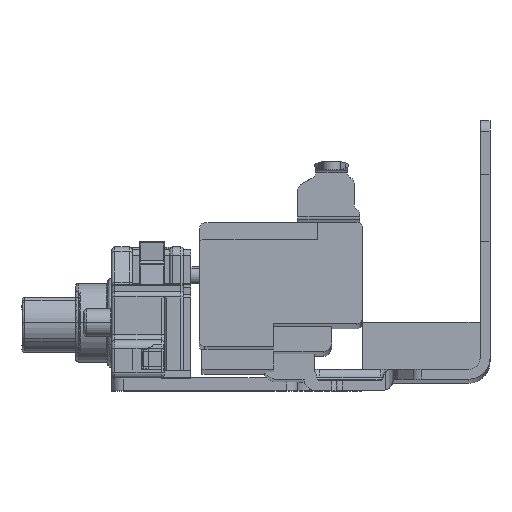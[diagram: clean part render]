
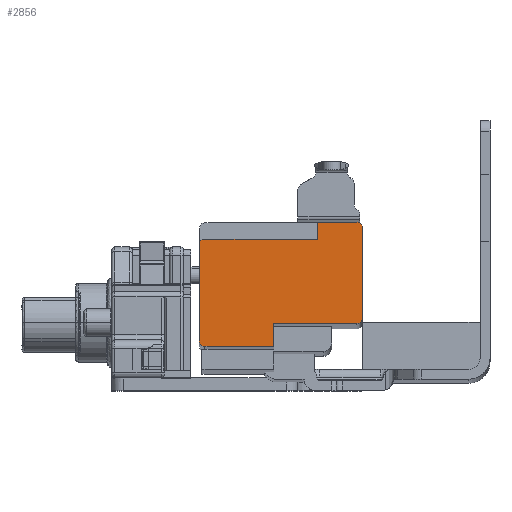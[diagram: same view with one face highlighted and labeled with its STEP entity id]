
A CAD part, top view. The second image highlights one B-rep face of the part: STEP entity #2856.
In plain terms, the highlighted planar face has unit normal (0, 0, 1).
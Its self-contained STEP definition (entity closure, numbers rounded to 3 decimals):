
#299 = VECTOR ( 'NONE', #1871, 1000. ) ;
#463 = CARTESIAN_POINT ( 'NONE',  ( -42.85, 3., 544.3 ) ) ;
#606 = ORIENTED_EDGE ( 'NONE', *, *, #17475, .F. ) ;
#682 = VERTEX_POINT ( 'NONE', #9401 ) ;
#933 = EDGE_CURVE ( 'NONE', #9607, #6659, #4961, .T. ) ;
#1223 = VECTOR ( 'NONE', #9857, 1000. ) ;
#1276 = CARTESIAN_POINT ( 'NONE',  ( -43.85, -14., 544.3 ) ) ;
#1586 = CIRCLE ( 'NONE', #10857, 1. ) ;
#1814 = VECTOR ( 'NONE', #14623, 1000. ) ;
#1827 = DIRECTION ( 'NONE',  ( 0., 0., -1. ) ) ;
#1871 = DIRECTION ( 'NONE',  ( 1., 0., 0. ) ) ;
#2123 = VERTEX_POINT ( 'NONE', #8996 ) ;
#2140 = VECTOR ( 'NONE', #15627, 1000. ) ;
#2372 = VECTOR ( 'NONE', #5344, 1000. ) ;
#2712 = EDGE_CURVE ( 'NONE', #16936, #17001, #8717, .T. ) ;
#2856 = ADVANCED_FACE ( 'NONE', ( #14424 ), #11990, .T. ) ;
#3037 = AXIS2_PLACEMENT_3D ( 'NONE', #10259, #1827, #11664 ) ;
#3532 = ORIENTED_EDGE ( 'NONE', *, *, #12934, .F. ) ;
#3564 = CARTESIAN_POINT ( 'NONE',  ( -40.3, 0., 544.3 ) ) ;
#3664 = CARTESIAN_POINT ( 'NONE',  ( -50.85, 1., 544.3 ) ) ;
#3776 = EDGE_CURVE ( 'NONE', #15639, #14780, #12922, .T. ) ;
#3796 = DIRECTION ( 'NONE',  ( 0., 0., -1. ) ) ;
#3938 = CARTESIAN_POINT ( 'NONE',  ( -58.68, 0., 544.3 ) ) ;
#4047 = CIRCLE ( 'NONE', #3037, 0.97 ) ;
#4367 = CARTESIAN_POINT ( 'NONE',  ( -50.85, 1., 544.3 ) ) ;
#4457 = DIRECTION ( 'NONE',  ( 0., 0., -1. ) ) ;
#4479 = EDGE_CURVE ( 'NONE', #15639, #8712, #11143, .T. ) ;
#4774 = CARTESIAN_POINT ( 'NONE',  ( -40.3, -18.1, 544.3 ) ) ;
#4828 = AXIS2_PLACEMENT_3D ( 'NONE', #12217, #3796, #13641 ) ;
#4961 = LINE ( 'NONE', #16797, #16199 ) ;
#4983 = DIRECTION ( 'NONE',  ( -1., 0., 0. ) ) ;
#5133 = LINE ( 'NONE', #4774, #1814 ) ;
#5344 = DIRECTION ( 'NONE',  ( 0., -1., 0. ) ) ;
#5448 = CARTESIAN_POINT ( 'NONE',  ( -71.88, -17.1, 544.3 ) ) ;
#5960 = EDGE_CURVE ( 'NONE', #14780, #9205, #7805, .T. ) ;
#6092 = ORIENTED_EDGE ( 'NONE', *, *, #2712, .F. ) ;
#6659 = VERTEX_POINT ( 'NONE', #5448 ) ;
#6782 = CARTESIAN_POINT ( 'NONE',  ( -42.85, -13., 544.3 ) ) ;
#6836 = CARTESIAN_POINT ( 'NONE',  ( -40.3, -14., 544.3 ) ) ;
#6985 = LINE ( 'NONE', #3938, #2372 ) ;
#7190 = CARTESIAN_POINT ( 'NONE',  ( -58.68, -14., 544.3 ) ) ;
#7340 = CIRCLE ( 'NONE', #17833, 1. ) ;
#7410 = VECTOR ( 'NONE', #15164, 1000. ) ;
#7439 = EDGE_LOOP ( 'NONE', ( #12522, #11257, #17515, #3532, #606, #7887, #6092, #14096, #7824, #14061, #7982, #8941 ) ) ;
#7622 = CARTESIAN_POINT ( 'NONE',  ( -43.85, -13., 544.3 ) ) ;
#7805 = LINE ( 'NONE', #10370, #299 ) ;
#7824 = ORIENTED_EDGE ( 'NONE', *, *, #5960, .F. ) ;
#7887 = ORIENTED_EDGE ( 'NONE', *, *, #16482, .F. ) ;
#7982 = ORIENTED_EDGE ( 'NONE', *, *, #4479, .T. ) ;
#8712 = VERTEX_POINT ( 'NONE', #10321 ) ;
#8717 = LINE ( 'NONE', #16880, #1223 ) ;
#8941 = ORIENTED_EDGE ( 'NONE', *, *, #16893, .F. ) ;
#8996 = CARTESIAN_POINT ( 'NONE',  ( -58.68, -18.1, 544.3 ) ) ;
#9055 = DIRECTION ( 'NONE',  ( -1., 0., 0. ) ) ;
#9205 = VERTEX_POINT ( 'NONE', #13071 ) ;
#9248 = EDGE_CURVE ( 'NONE', #682, #2123, #5133, .T. ) ;
#9401 = CARTESIAN_POINT ( 'NONE',  ( -70.88, -18.1, 544.3 ) ) ;
#9607 = VERTEX_POINT ( 'NONE', #14745 ) ;
#9630 = CARTESIAN_POINT ( 'NONE',  ( -50.85, 4., 544.3 ) ) ;
#9857 = DIRECTION ( 'NONE',  ( 0., -1., 0. ) ) ;
#9908 = EDGE_CURVE ( 'NONE', #9205, #16936, #7340, .T. ) ;
#10259 = CARTESIAN_POINT ( 'NONE',  ( -70.91, 0.03, 544.3 ) ) ;
#10321 = CARTESIAN_POINT ( 'NONE',  ( -70.91, 1., 544.3 ) ) ;
#10340 = EDGE_CURVE ( 'NONE', #682, #6659, #12380, .T. ) ;
#10370 = CARTESIAN_POINT ( 'NONE',  ( -48.65, 4., 544.3 ) ) ;
#10835 = VECTOR ( 'NONE', #15272, 1000. ) ;
#10857 = AXIS2_PLACEMENT_3D ( 'NONE', #7622, #17512, #9055 ) ;
#11143 = LINE ( 'NONE', #15098, #7410 ) ;
#11257 = ORIENTED_EDGE ( 'NONE', *, *, #10340, .F. ) ;
#11664 = DIRECTION ( 'NONE',  ( -1., 0., 0. ) ) ;
#11990 = PLANE ( 'NONE',  #15851 ) ;
#12217 = CARTESIAN_POINT ( 'NONE',  ( -70.88, -17.1, 544.3 ) ) ;
#12380 = CIRCLE ( 'NONE', #4828, 1. ) ;
#12522 = ORIENTED_EDGE ( 'NONE', *, *, #933, .T. ) ;
#12860 = CARTESIAN_POINT ( 'NONE',  ( -43.85, 3., 544.3 ) ) ;
#12922 = LINE ( 'NONE', #4367, #2140 ) ;
#12934 = EDGE_CURVE ( 'NONE', #15376, #2123, #6985, .T. ) ;
#13071 = CARTESIAN_POINT ( 'NONE',  ( -43.85, 4., 544.3 ) ) ;
#13412 = DIRECTION ( 'NONE',  ( 0., 0., 1. ) ) ;
#13641 = DIRECTION ( 'NONE',  ( -1., 0., 0. ) ) ;
#14061 = ORIENTED_EDGE ( 'NONE', *, *, #3776, .F. ) ;
#14096 = ORIENTED_EDGE ( 'NONE', *, *, #9908, .F. ) ;
#14292 = DIRECTION ( 'NONE',  ( -1., 0., 0. ) ) ;
#14424 = FACE_OUTER_BOUND ( 'NONE', #7439, .T. ) ;
#14562 = LINE ( 'NONE', #6836, #10835 ) ;
#14623 = DIRECTION ( 'NONE',  ( 1., 0., 0. ) ) ;
#14745 = CARTESIAN_POINT ( 'NONE',  ( -71.88, 0.03, 544.3 ) ) ;
#14780 = VERTEX_POINT ( 'NONE', #9630 ) ;
#15098 = CARTESIAN_POINT ( 'NONE',  ( -41.05, 1., 544.3 ) ) ;
#15164 = DIRECTION ( 'NONE',  ( -1., 0., 0. ) ) ;
#15260 = VERTEX_POINT ( 'NONE', #1276 ) ;
#15272 = DIRECTION ( 'NONE',  ( -1., 0., 0. ) ) ;
#15376 = VERTEX_POINT ( 'NONE', #7190 ) ;
#15627 = DIRECTION ( 'NONE',  ( 0., 1., 0. ) ) ;
#15639 = VERTEX_POINT ( 'NONE', #3664 ) ;
#15851 = AXIS2_PLACEMENT_3D ( 'NONE', #3564, #13412, #4983 ) ;
#16199 = VECTOR ( 'NONE', #16374, 1000. ) ;
#16374 = DIRECTION ( 'NONE',  ( 0., -1., 0. ) ) ;
#16482 = EDGE_CURVE ( 'NONE', #17001, #15260, #1586, .T. ) ;
#16797 = CARTESIAN_POINT ( 'NONE',  ( -71.88, 0., 544.3 ) ) ;
#16880 = CARTESIAN_POINT ( 'NONE',  ( -42.85, 0., 544.3 ) ) ;
#16893 = EDGE_CURVE ( 'NONE', #9607, #8712, #4047, .T. ) ;
#16936 = VERTEX_POINT ( 'NONE', #463 ) ;
#17001 = VERTEX_POINT ( 'NONE', #6782 ) ;
#17475 = EDGE_CURVE ( 'NONE', #15260, #15376, #14562, .T. ) ;
#17512 = DIRECTION ( 'NONE',  ( 0., 0., -1. ) ) ;
#17515 = ORIENTED_EDGE ( 'NONE', *, *, #9248, .T. ) ;
#17833 = AXIS2_PLACEMENT_3D ( 'NONE', #12860, #4457, #14292 ) ;
